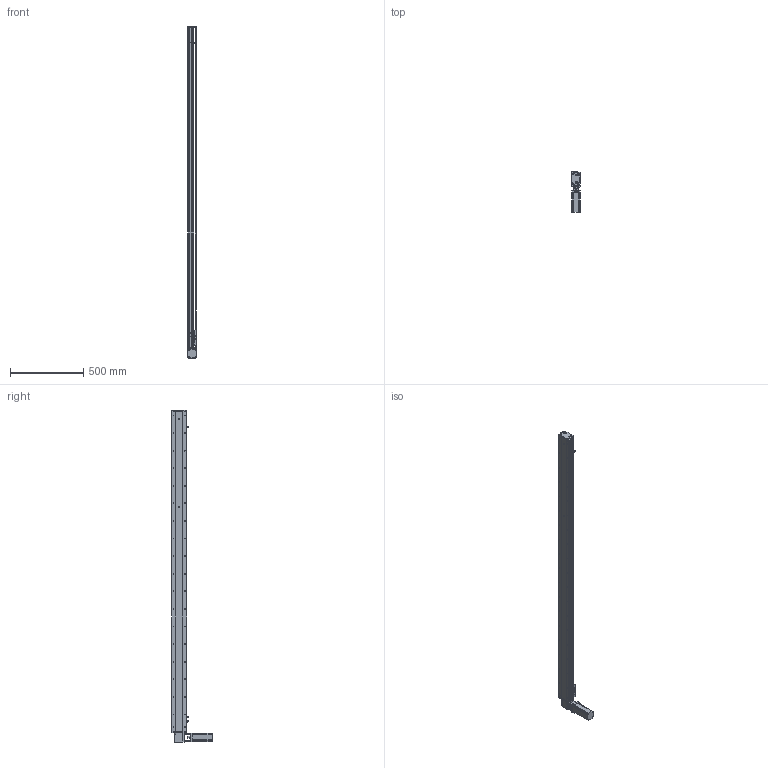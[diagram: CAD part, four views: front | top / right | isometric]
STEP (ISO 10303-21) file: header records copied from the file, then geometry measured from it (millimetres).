
FILE_DESCRIPTION (( 'STEP AP214' ), '1' );
FILE_NAME ('KSD100B-S2000-MLT-CM.STEP', '2019-10-26T06:08:42', ( '微软用户' ), ( '微软中国' ), 'SwSTEP 2.0', 'SolidWorks 2014', '' );
FILE_SCHEMA (( 'AUTOMOTIVE_DESIGN' ));
Length unit declared in the file: millimetre
Products named in the file (12): 100宽防尘板2000行程-同步带; U倰嫖萇EEㄜSX672; 覜茼え100遵圉猾敕; 台达ECMA－C20604AS伺服电机; 100宽马达安装板同步带右; 100宽同步带安装板半封闭; 100宽马达安装板同步带; 100遵傷啣肮祭湍; 100宽底板半封闭同步带2000行程; KSD100B-S2000-MLT-CM; 100宽安装板同步带带电机座400W,86; 100遵鎮湛假蚾啣1 
Assembly tree (13 placements, depth 2):
  KSD100B-S2000-MLT-CM
    100宽底板半封闭同步带2000行程
    100遵傷啣肮祭湍
    100宽马达安装板同步带
    100宽同步带安装板半封闭
    100宽马达安装板同步带右
    台达ECMA－C20604AS伺服电机
    覜茼え100遵圉猾敕
    U倰嫖萇EEㄜSX672  x3
    100宽防尘板2000行程-同步带
    100遵鎮湛假蚾啣1 
    100宽安装板同步带带电机座400W,86
Bounding box: 61 x 275 x 2265 mm (x, y, z)
Volume: 4586390.6 mm3; surface area: 1562215.8 mm2
Topology: 14 solids, 14 shells, 1754 faces, 4987 edges, 3127 vertices
Faces by surface type: cylinder 936, plane 611, cone 207
Entity records: 64471 total; most frequent: CARTESIAN_POINT 14358, DIRECTION 8743, ORIENTED_EDGE 8466, EDGE_CURVE 4233, AXIS2_PLACEMENT_3D 3250, VERTEX_POINT 2751, VECTOR 2243, LINE 2243
